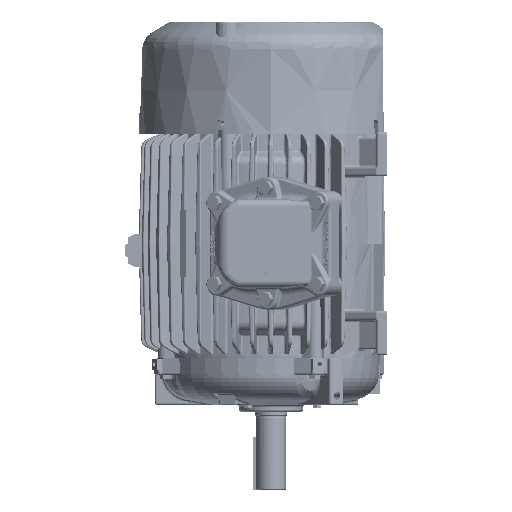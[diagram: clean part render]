
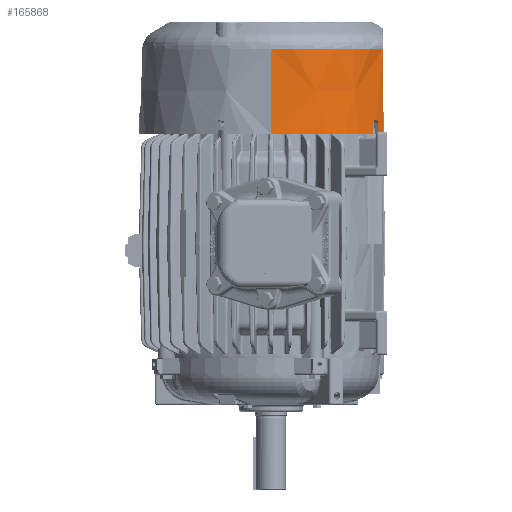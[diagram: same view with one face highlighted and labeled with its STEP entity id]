
A CAD part, left-side view. The second image highlights one B-rep face of the part: STEP entity #165868.
In plain terms, the highlighted conical face has half-angle 1.5 degrees and reference radius 180.594 mm.
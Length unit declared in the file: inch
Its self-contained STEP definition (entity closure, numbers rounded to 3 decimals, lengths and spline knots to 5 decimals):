
#2729 = ORIENTED_EDGE ( 'NONE', *, *, #194296, .T. ) ;
#2938 = CARTESIAN_POINT ( 'NONE',  ( -3.71992, -6.01253, 7.4299 ) ) ;
#8818 = CARTESIAN_POINT ( 'NONE',  ( -4.18016, -5.72959, 6.57284 ) ) ;
#8965 = DIRECTION ( 'NONE',  ( -1., 0., 0. ) ) ;
#9534 = CARTESIAN_POINT ( 'NONE',  ( -4.35592, -5.59428, 6.65917 ) ) ;
#9542 = CARTESIAN_POINT ( 'NONE',  ( -3.56043, -6.01506, 10.48942 ) ) ;
#10283 = CARTESIAN_POINT ( 'NONE',  ( -4.47824, -5.50252, 6.4906 ) ) ;
#13548 = DIRECTION ( 'NONE',  ( 0., 0., 1. ) ) ;
#13871 = DIRECTION ( 'NONE',  ( 0., 0., 1. ) ) ;
#22722 = ORIENTED_EDGE ( 'NONE', *, *, #84878, .F. ) ;
#25214 = CARTESIAN_POINT ( 'NONE',  ( -4.15597, -5.74981, 6.4906 ) ) ;
#25954 = CARTESIAN_POINT ( 'NONE',  ( -4.19887, -5.71492, 6.60259 ) ) ;
#26711 = CARTESIAN_POINT ( 'NONE',  ( -4.38427, -5.57251, 6.64654 ) ) ;
#27376 = AXIS2_PLACEMENT_3D ( 'NONE', #59390, #179323, #76552 ) ;
#28126 = VERTEX_POINT ( 'NONE', #9542 ) ;
#40015 = CARTESIAN_POINT ( 'NONE',  ( -4.12339, -5.79222, 5.9 ) ) ;
#43076 = CARTESIAN_POINT ( 'NONE',  ( -4.22161, -5.69735, 6.62733 ) ) ;
#43233 = CARTESIAN_POINT ( 'NONE',  ( 0., 0., 5.9 ) ) ;
#43794 = CARTESIAN_POINT ( 'NONE',  ( -4.41051, -5.5524, 6.62741 ) ) ;
#46327 = CARTESIAN_POINT ( 'NONE',  ( -4.49544, -5.49545, 6.28543 ) ) ;
#55809 = CARTESIAN_POINT ( 'NONE',  ( -3.56043, -6.01506, 10.48942 ) ) ;
#59390 = CARTESIAN_POINT ( 'NONE',  ( 0., 0., 5.9 ) ) ;
#60288 = CARTESIAN_POINT ( 'NONE',  ( -4.24778, -5.67724, 6.64647 ) ) ;
#61027 = CARTESIAN_POINT ( 'NONE',  ( -4.43332, -5.53503, 6.60274 ) ) ;
#61320 =( BOUNDED_CURVE ( )  B_SPLINE_CURVE ( 3, ( #86187, #68998, #188295, #206173 ),
 .UNSPECIFIED., .F., .F. ) 
 B_SPLINE_CURVE_WITH_KNOTS ( ( 4, 4 ),
 ( 1.84038, 1.84717 ),
 .UNSPECIFIED. ) 
 CURVE ( )  GEOMETRIC_REPRESENTATION_ITEM ( )  RATIONAL_B_SPLINE_CURVE ( ( 1., 1., 1., 1. ) ) 
 REPRESENTATION_ITEM ( '' )  );
#63539 = CARTESIAN_POINT ( 'NONE',  ( -4.47931, -5.50208, 6.47787 ) ) ;
#64907 = EDGE_CURVE ( 'NONE', #166694, #219995, #84573, .T. ) ;
#68998 = CARTESIAN_POINT ( 'NONE',  ( -4.13406, -5.77842, 6.09281 ) ) ;
#72529 = AXIS2_PLACEMENT_3D ( 'NONE', #115900, #13548, #133127 ) ;
#73748 = EDGE_CURVE ( 'NONE', #171408, #28126, #187306, .T. ) ;
#76552 = DIRECTION ( 'NONE',  ( 1., 0., 0. ) ) ;
#77492 = CARTESIAN_POINT ( 'NONE',  ( -4.27609, -5.65553, 6.65911 ) ) ;
#78247 = CARTESIAN_POINT ( 'NONE',  ( -4.45241, -5.52068, 6.57293 ) ) ;
#84573 =( BOUNDED_CURVE ( )  B_SPLINE_CURVE ( 3, ( #63539, #46327, #182769, #183500 ),
 .UNSPECIFIED., .F., .T. ) 
 B_SPLINE_CURVE_WITH_KNOTS ( ( 4, 4 ),
 ( 4.43601, 4.44281 ),
 .UNSPECIFIED. ) 
 CURVE ( )  GEOMETRIC_REPRESENTATION_ITEM ( )  RATIONAL_B_SPLINE_CURVE ( ( 1., 1., 1., 1. ) ) 
 REPRESENTATION_ITEM ( '' )  );
#84878 = EDGE_CURVE ( 'NONE', #114443, #167639, #61320, .T. ) ;
#86187 = CARTESIAN_POINT ( 'NONE',  ( -4.12339, -5.79222, 5.9 ) ) ;
#86317 = LINE ( 'NONE', #206034, #137287 ) ;
#89676 = B_SPLINE_CURVE_WITH_KNOTS ( 'NONE', 3,
 ( #122378, #2938, #158442, #55809 ),
 .UNSPECIFIED., .F., .F.,
 ( 4, 4 ),
 ( 0., 0.11673 ),
 .UNSPECIFIED. ) ;
#91693 = ORIENTED_EDGE ( 'NONE', *, *, #92022, .F. ) ;
#92022 = EDGE_CURVE ( 'NONE', #167639, #166694, #187510, .T. ) ;
#93891 = CARTESIAN_POINT ( 'NONE',  ( -4.16274, -5.74373, 6.52732 ) ) ;
#94464 = CONICAL_SURFACE ( 'NONE', #107232, 7.11, 0.026 ) ;
#94604 = CARTESIAN_POINT ( 'NONE',  ( -4.30604, -5.63257, 6.665 ) ) ;
#95335 = CARTESIAN_POINT ( 'NONE',  ( -4.46679, -5.51017, 6.53954 ) ) ;
#103232 = DIRECTION ( 'NONE',  ( -0.026, 0., -1. ) ) ;
#107232 = AXIS2_PLACEMENT_3D ( 'NONE', #43233, #162416, #8965 ) ;
#110116 = ORIENTED_EDGE ( 'NONE', *, *, #73748, .F. ) ;
#111132 = CARTESIAN_POINT ( 'NONE',  ( -4.17498, -5.73371, 6.56209 ) ) ;
#111873 = CARTESIAN_POINT ( 'NONE',  ( -4.33603, -5.60955, 6.66385 ) ) ;
#112642 = CARTESIAN_POINT ( 'NONE',  ( -4.47627, -5.5037, 6.50308 ) ) ;
#114443 = VERTEX_POINT ( 'NONE', #40015 ) ;
#115900 = CARTESIAN_POINT ( 'NONE',  ( 0., 0., 10.48942 ) ) ;
#116204 = CARTESIAN_POINT ( 'NONE',  ( 0., 0., 5.9 ) ) ;
#119594 = ORIENTED_EDGE ( 'NONE', *, *, #218300, .T. ) ;
#122378 = CARTESIAN_POINT ( 'NONE',  ( -3.7969, -6.0113, 5.9 ) ) ;
#128383 = CARTESIAN_POINT ( 'NONE',  ( -4.19206, -5.72023, 6.59304 ) ) ;
#129134 = CARTESIAN_POINT ( 'NONE',  ( -4.36562, -5.58682, 6.65567 ) ) ;
#129861 = CARTESIAN_POINT ( 'NONE',  ( -4.47931, -5.50208, 6.47787 ) ) ;
#131451 = CARTESIAN_POINT ( 'NONE',  ( -3.7969, -6.0113, 5.9 ) ) ;
#133127 = DIRECTION ( 'NONE',  ( 1., 0., 0. ) ) ;
#133449 = DIRECTION ( 'NONE',  ( 1., 0., 0. ) ) ;
#137287 = VECTOR ( 'NONE', #103232, 39.37008 ) ;
#143332 = ORIENTED_EDGE ( 'NONE', *, *, #201200, .T. ) ;
#145526 = FACE_OUTER_BOUND ( 'NONE', #181823, .T. ) ;
#145669 = CARTESIAN_POINT ( 'NONE',  ( -4.21365, -5.70348, 6.61971 ) ) ;
#146441 = CARTESIAN_POINT ( 'NONE',  ( -4.3933, -5.56558, 6.64087 ) ) ;
#147895 = VERTEX_POINT ( 'NONE', #131451 ) ;
#150369 = ORIENTED_EDGE ( 'NONE', *, *, #64907, .F. ) ;
#154266 = AXIS2_PLACEMENT_3D ( 'NONE', #116204, #13871, #133449 ) ;
#158442 = CARTESIAN_POINT ( 'NONE',  ( -3.64122, -6.01378, 8.95972 ) ) ;
#162253 = CARTESIAN_POINT ( 'NONE',  ( -4.15527, -5.75073, 6.47787 ) ) ;
#162416 = DIRECTION ( 'NONE',  ( 0., 0., -1. ) ) ;
#163002 = CARTESIAN_POINT ( 'NONE',  ( -4.23863, -5.68426, 6.64071 ) ) ;
#163760 = CARTESIAN_POINT ( 'NONE',  ( -4.4185, -5.54629, 6.61977 ) ) ;
#165868 = ADVANCED_FACE ( 'NONE', ( #145526 ), #94464, .T. ) ;
#166694 = VERTEX_POINT ( 'NONE', #183913 ) ;
#167639 = VERTEX_POINT ( 'NONE', #199916 ) ;
#169929 = CARTESIAN_POINT ( 'NONE',  ( -7.11, 0., 5.9 ) ) ;
#171408 = VERTEX_POINT ( 'NONE', #220113 ) ;
#174771 = ORIENTED_EDGE ( 'NONE', *, *, #208122, .T. ) ;
#176992 = CIRCLE ( 'NONE', #154266, 7.11 ) ;
#179323 = DIRECTION ( 'NONE',  ( 0., 0., 1. ) ) ;
#180246 = CARTESIAN_POINT ( 'NONE',  ( -4.26647, -5.66291, 6.65564 ) ) ;
#180966 = CARTESIAN_POINT ( 'NONE',  ( -4.44021, -5.52982, 6.59324 ) ) ;
#181823 = EDGE_LOOP ( 'NONE', ( #110116, #174771, #2729, #150369, #91693, #22722, #143332, #119594 ) ) ;
#182769 = CARTESIAN_POINT ( 'NONE',  ( -4.51155, -5.48876, 6.09281 ) ) ;
#183500 = CARTESIAN_POINT ( 'NONE',  ( -4.52764, -5.48202, 5.9 ) ) ;
#183913 = CARTESIAN_POINT ( 'NONE',  ( -4.47931, -5.50208, 6.47787 ) ) ;
#187306 = CIRCLE ( 'NONE', #72529, 6.98982 ) ;
#187510 = B_SPLINE_CURVE_WITH_KNOTS ( 'NONE', 3,
 ( #162253, #25214, #196708, #93891, #213936, #111132, #8818, #128383, #25954, #145669, #43076, #163002, #60288, #180246, #77492, #197441, #94604, #214702, #111873, #9534, #129134, #26711, #146441, #43794, #163760, #61027, #180966, #78247, #198178, #95335, #215430, #112642, #10283, #129861 ),
 .UNSPECIFIED., .F., .F.,
 ( 4, 2, 2, 2, 2, 2, 2, 2, 2, 2, 2, 2, 2, 2, 2, 2, 4 ),
 ( 0., 0.00096, 0.00192, 0.00288, 0.00384, 0.0048, 0.00576, 0.00673, 0.00769, 0.00865, 0.00961, 0.01057, 0.01153, 0.01249, 0.01345, 0.01441, 0.01537 ),
 .UNSPECIFIED. ) ;
#188295 = CARTESIAN_POINT ( 'NONE',  ( -4.14469, -5.76459, 6.28543 ) ) ;
#194296 = EDGE_CURVE ( 'NONE', #203773, #219995, #176992, .T. ) ;
#196708 = CARTESIAN_POINT ( 'NONE',  ( -4.15762, -5.74822, 6.50304 ) ) ;
#197441 = CARTESIAN_POINT ( 'NONE',  ( -4.29589, -5.64035, 6.66381 ) ) ;
#198178 = CARTESIAN_POINT ( 'NONE',  ( -4.45772, -5.51675, 6.56219 ) ) ;
#199912 = CIRCLE ( 'NONE', #27376, 7.11 ) ;
#199916 = CARTESIAN_POINT ( 'NONE',  ( -4.15527, -5.75073, 6.47787 ) ) ;
#201200 = EDGE_CURVE ( 'NONE', #114443, #147895, #199912, .T. ) ;
#203773 = VERTEX_POINT ( 'NONE', #169929 ) ;
#206034 = CARTESIAN_POINT ( 'NONE',  ( -7.11, 0., 5.9 ) ) ;
#206173 = CARTESIAN_POINT ( 'NONE',  ( -4.15527, -5.75073, 6.47787 ) ) ;
#208122 = EDGE_CURVE ( 'NONE', #171408, #203773, #86317, .T. ) ;
#213936 = CARTESIAN_POINT ( 'NONE',  ( -4.16624, -5.7408, 6.53927 ) ) ;
#214702 = CARTESIAN_POINT ( 'NONE',  ( -4.32606, -5.61721, 6.665 ) ) ;
#215430 = CARTESIAN_POINT ( 'NONE',  ( -4.47057, -5.50752, 6.52752 ) ) ;
#218300 = EDGE_CURVE ( 'NONE', #147895, #28126, #89676, .T. ) ;
#219995 = VERTEX_POINT ( 'NONE', #222098 ) ;
#220113 = CARTESIAN_POINT ( 'NONE',  ( -6.98982, 0., 10.48942 ) ) ;
#222098 = CARTESIAN_POINT ( 'NONE',  ( -4.52764, -5.48202, 5.9 ) ) ;
